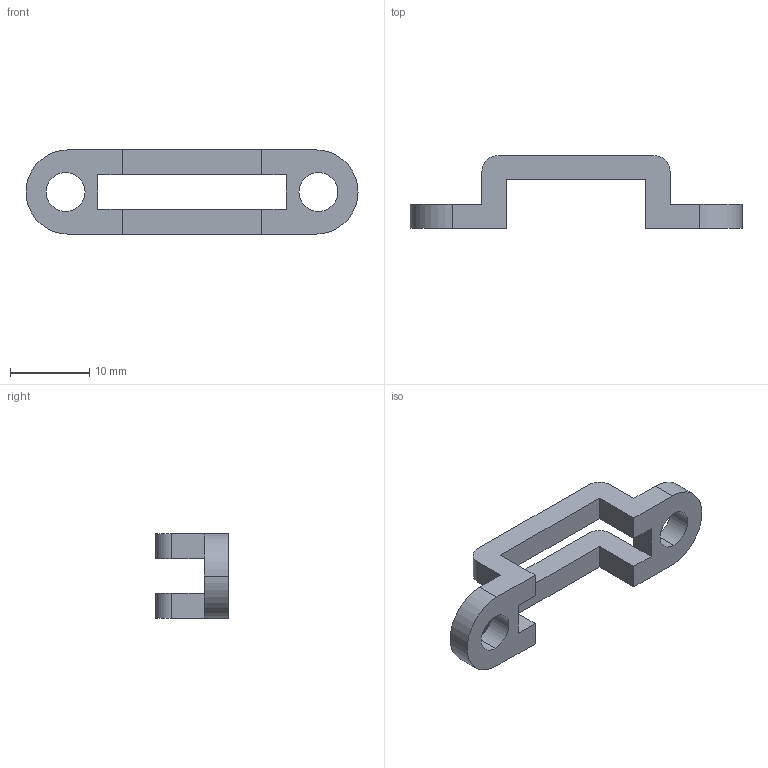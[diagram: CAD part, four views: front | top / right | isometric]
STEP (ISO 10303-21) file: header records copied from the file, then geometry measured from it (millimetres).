
FILE_DESCRIPTION (( 'STEP AP214' ), '1' );
FILE_NAME ('4031_Reference_STEP.STEP', '2025-03-24T15:12:26', ( '' ), ( '' ), 'SwSTEP 2.0', 'SolidWorks 2025', '' );
FILE_SCHEMA (( 'AUTOMOTIVE_DESIGN' ));
Length unit declared in the file: inch
Products named in the file (1): 4031_Reference_STEP
Bounding box: 42.01 x 9.22 x 10.67 mm (x, y, z)
Volume: 1089.8 mm3; surface area: 1413.8 mm2
Topology: 1 solids, 1 shells, 34 faces, 98 edges, 64 vertices
Faces by surface type: plane 22, cylinder 12
Entity records: 1153 total; most frequent: CARTESIAN_POINT 197, ORIENTED_EDGE 196, DIRECTION 192, EDGE_CURVE 98, VECTOR 74, LINE 74, VERTEX_POINT 64, AXIS2_PLACEMENT_3D 59
